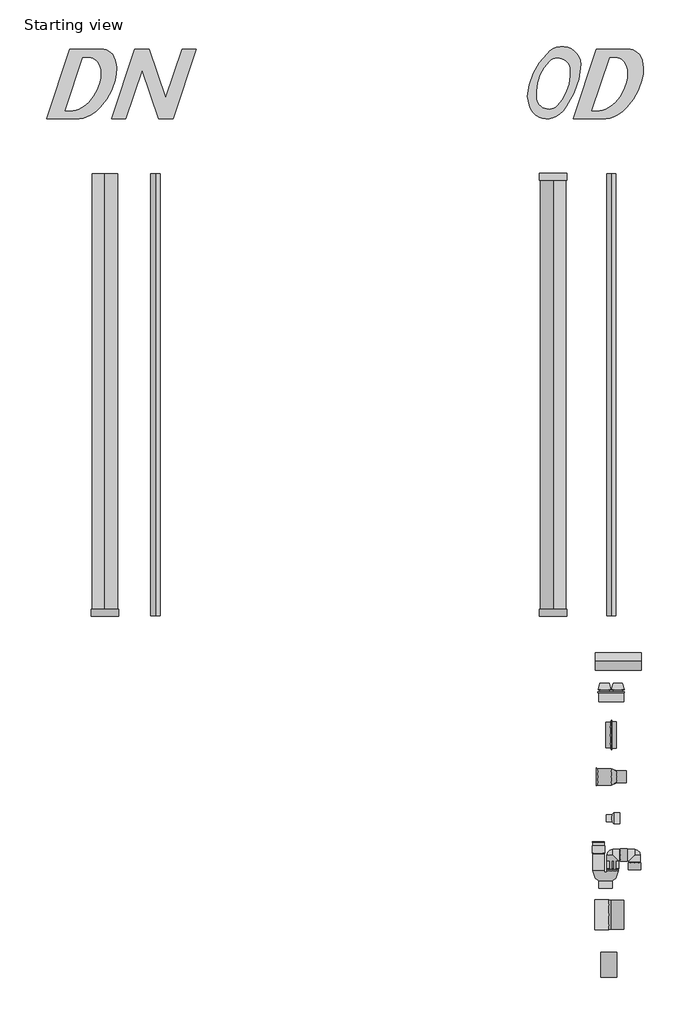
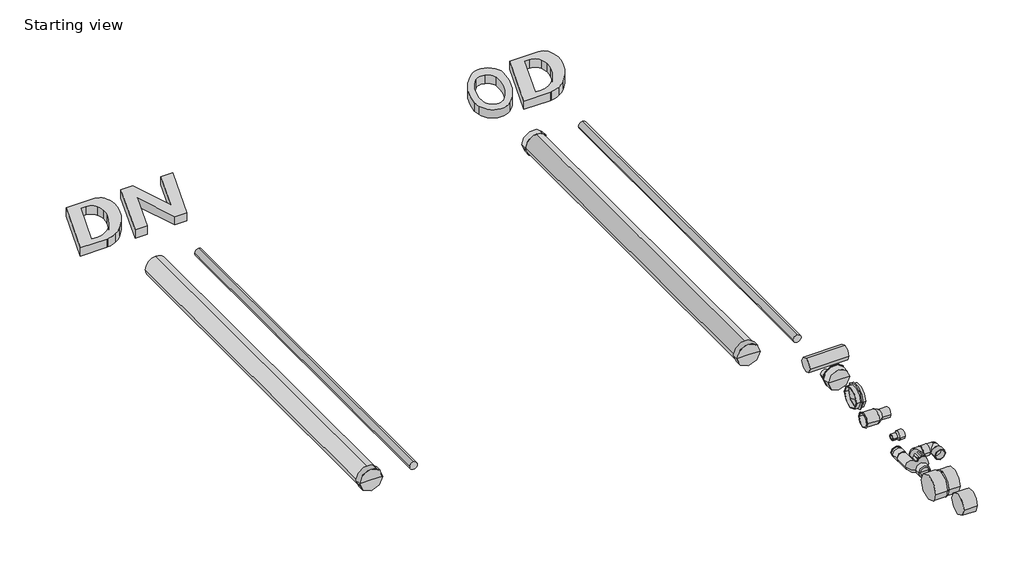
# One storey: 10 pipe fittings, 5 pipe segments, 2 flow terminals.
"""IFC4 building model written with IfcOpenShell, lengths in millimetres."""

from ifc_helpers import new_model, si_unit, point, frame, frame_2d, origin, place, context, project, spatial, circle_curve, trimmed, segment, composite_curve, outline, extrude, transform, mapped, element, save
from components import pipelife_dn_pipelife_dn_dacb9fbb, pipelife_od_pipelife_od_c3ca6225, pipe_fitting_c9823350, pipe_fitting_9321a9eb, pipe_fitting_9f1e6ddc, pipe_fitting_5ac68bb0, pipe_fitting_c3f38ee5, pipe_fitting_0e6800da, pipe_fitting_7a2b44dd, pipe_fitting_538497f1

model = new_model("IFC4")

# Units and contexts
model_context = context("Model", 3, world=origin())
ifc_project = project(units=[si_unit("LENGTHUNIT", "METRE", prefix="MILLI")], contexts=[model_context])

# Site, building, storey
site = spatial("IfcSite", under=ifc_project)
building = spatial("IfcBuilding", under=site)
storey = spatial("IfcBuildingStorey", under=building, Name="Starting view", Elevation=0.0)

# Flow terminals
placement = place(None, origin())
pipelife_dn_pipelife_dn_shape = pipelife_dn_pipelife_dn_dacb9fbb(model_context)
element("IfcFlowTerminal", 1, ObjectType="PipeLife_DN : PipeLife_DN", at=placement, inside=storey, context=model_context, shape_type="MappedRepresentation", body=[
    mapped(pipelife_dn_pipelife_dn_shape, transform((5958.7063136, 2998.2694372, 0.0), x_axis=(1.0, 0.0, 0.0), y_axis=(0.0, 1.0, 0.0), z_axis=(0.0, 0.0, 1.0))),
])
pipelife_od_pipelife_od_shape = pipelife_od_pipelife_od_c3ca6225(model_context)
element("IfcFlowTerminal", 2, ObjectType="PipeLife_OD : PipeLife_OD", at=placement, inside=storey, context=model_context, shape_type="MappedRepresentation", body=[
    mapped(pipelife_od_pipelife_od_shape, transform((7938.7063136, 2998.2694372, 0.0), x_axis=(1.0, 0.0, 0.0), y_axis=(0.0, 1.0, 0.0), z_axis=(0.0, 0.0, 1.0))),
])

# Pipe fittings
pipe_fitting_shape = pipe_fitting_c9823350(model_context)
element("IfcPipeFitting", 3, ObjectType="NLRS_52_UN_PIF_PVC kombikap_PipeLife : Grijs, var. DN/OD", at=placement, inside=storey, context=model_context, shape_type="MappedRepresentation", body=[
    mapped(pipe_fitting_shape, transform((8103.7063136, 323.2133585, 0.0), x_axis=(1.0, 0.0, 0.0), y_axis=(0.0, 1.0, 0.0), z_axis=(0.0, 0.0, 1.0))),
])
pipe_fitting_2_shape = pipe_fitting_9321a9eb(model_context)
element("IfcPipeFitting", 4, ObjectType="NLRS_52_UN_PIF_PVC krimpmof MS_PipeLife : Grijs, var. DN/OD", at=placement, inside=storey, context=model_context, shape_type="MappedRepresentation", body=[
    mapped(pipe_fitting_2_shape, transform((8115.8562575, 142.5372837, 0.0), x_axis=(1.0, 0.0, 0.0), y_axis=(0.0, 1.0, 0.0), z_axis=(0.0, 0.0, 1.0))),
])
pipe_fitting_3_shape = pipe_fitting_9f1e6ddc(model_context)
element("IfcPipeFitting", 5, ObjectType="NLRS_52_UN_PIF_PVC dubbele verloopring_PipeLife : Grijs, var. DN/OD", at=placement, inside=storey, context=model_context, shape_type="MappedRepresentation", body=[
    mapped(pipe_fitting_3_shape, transform((8095.8562575, -673.7099052, 0.0), x_axis=(1.0, 0.0, 0.0), y_axis=(0.0, 1.0, 0.0), z_axis=(0.0, 0.0, 1.0))),
])
pipe_fitting_4_shape = pipe_fitting_5ac68bb0(model_context)
element("IfcPipeFitting", 6, ObjectType="NLRS_52_UN_PIF_PVC Universeel Sifon_PipeLife : Grijs, var. DN/OD", at=placement, inside=storey, context=model_context, shape_type="MappedRepresentation", body=[
    mapped(pipe_fitting_4_shape, transform((8047.8048271, -213.1244889, 0.0), x_axis=(1.0, 0.0, 0.0), y_axis=(0.0, 1.0, 0.0), z_axis=(0.0, 0.0, 1.0))),
])
pipe_fitting_5_shape = pipe_fitting_c3f38ee5(model_context)
element("IfcPipeFitting", 7, ObjectType="NLRS_52_UN_PIF_PVC beluchter Spie_PipeLife : Grijs, var. DN/OD", at=placement, inside=storey, context=model_context, shape_type="MappedRepresentation", body=[
    mapped(pipe_fitting_5_shape, transform((8103.7063136, 508.1748023, 0.0), x_axis=(0.0, 1.0000000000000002, 0.0), y_axis=(-1.0000000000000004, 0.0, 0.0), z_axis=(0.0, 0.0, 1.0000000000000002))),
])
pipe_fitting_6_shape = pipe_fitting_0e6800da(model_context)
element("IfcPipeFitting", 8, ObjectType="NLRS_52_UN_PIF_PVC verbindingsstuk mof- vse spie_PipeLife : Grijs, var. DN/OD", at=placement, inside=storey, context=model_context, shape_type="MappedRepresentation", body=[
    mapped(pipe_fitting_6_shape, transform((8095.8562575, -456.5845592, 0.0), x_axis=(1.0, 0.0, 0.0), y_axis=(0.0, 1.0, 0.0), z_axis=(0.0, 0.0, 1.0))),
])
pipe_fitting_7_shape = pipe_fitting_7a2b44dd(model_context)
element("IfcPipeFitting", 9, ObjectType="NLRS_52_UN_PIF_PVC afsluitkap_PipeLife : Grijs, var. DN/OD", at=placement, inside=storey, context=model_context, shape_type="MappedRepresentation", body=[
    mapped(pipe_fitting_7_shape, transform((5903.7063136, 840.8849051, 0.0), x_axis=(0.0, -1.0, 0.0), y_axis=(1.0, 0.0, 0.0), z_axis=(0.0, 0.0, 1.0))),
])
element("IfcPipeFitting", 10, ObjectType="NLRS_52_UN_PIF_PVC afsluitkap_PipeLife : Grijs, var. DN/OD", at=placement, inside=storey, context=model_context, shape_type="MappedRepresentation", body=[
    mapped(pipe_fitting_7_shape, transform((7851.0966084, 2760.8849051, 0.0), x_axis=(0.0, 1.0, 0.0), y_axis=(-1.0, 0.0, 0.0), z_axis=(0.0, 0.0, 1.0))),
])
element("IfcPipeFitting", 11, ObjectType="NLRS_52_UN_PIF_PVC afsluitkap_PipeLife : Grijs, var. DN/OD", at=placement, inside=storey, context=model_context, shape_type="MappedRepresentation", body=[
    mapped(pipe_fitting_7_shape, transform((7851.0966084, 840.8849051, 0.0), x_axis=(0.0, -1.0, 0.0), y_axis=(1.0, 0.0, 0.0), z_axis=(0.0, 0.0, 1.0))),
])
pipe_fitting_8_shape = pipe_fitting_538497f1(model_context)
element("IfcPipeFitting", 12, ObjectType="NLRS_52_UN_PIF_PVC overgangsstuk PVC-Metaal MS_PipeLife : Grijs, var. DN/OD", at=placement, inside=storey, context=model_context, shape_type="MappedRepresentation", body=[
    mapped(pipe_fitting_8_shape, transform((8116.8647405, -37.8459166, 0.0), x_axis=(1.0, 0.0, 0.0), y_axis=(0.0, 1.0, 0.0), z_axis=(0.0, 0.0, 1.0))),
])

# Pipe segments
element("IfcPipeSegment", 13, ObjectType="NLRS_52_PI_Polisan PVC Wit DN_PipeLife", at=placement, inside=storey, context=model_context, shape_type="SweptSolid", body=[
    extrude(outline(composite_curve([segment(trimmed(circle_curve(frame_2d((0.0, 6123.7063136)), 20.0), [point((0.0, 6103.7063136))], [point((-20.0, 6123.7063136))], False, "CARTESIAN"), True, "CONTINUOUS"), segment(trimmed(circle_curve(frame_2d((0.0, 6123.7063136)), 20.0), [point((-20.0, 6123.7063136))], [point((0.0, 6143.7063136))], False, "CARTESIAN"), True, "CONTINUOUS"), segment(trimmed(circle_curve(frame_2d((0.0, 6123.7063136)), 20.0), [point((0.0, 6143.7063136))], [point((20.0, 6123.7063136))], False, "CARTESIAN"), True, "CONTINUOUS"), segment(trimmed(circle_curve(frame_2d((0.0, 6123.7063136)), 20.0), [point((20.0, 6123.7063136))], [point((0.0, 6103.7063136))], False, "CARTESIAN"), True, "CONTINUOUS")], self_intersect=False)), frame((0.0, 840.8849051, 0.0), z_axis=(0.0, 1.0, 0.0), x_axis=(0.0, 0.0, 1.0)), (0.0, 0.0, 1.0), 1920.0),
])
element("IfcPipeSegment", 14, ObjectType="NLRS_52_PI_Polisan PVC Wit OD_PipeLife", at=placement, inside=storey, context=model_context, shape_type="SweptSolid", body=[
    extrude(outline(composite_curve([segment(trimmed(circle_curve(frame_2d((0.0, 8103.7063136)), 20.0), [point((0.0, 8083.7063136))], [point((-20.0, 8103.7063136))], False, "CARTESIAN"), True, "CONTINUOUS"), segment(trimmed(circle_curve(frame_2d((0.0, 8103.7063136)), 20.0), [point((-20.0, 8103.7063136))], [point((0.0, 8123.7063136))], False, "CARTESIAN"), True, "CONTINUOUS"), segment(trimmed(circle_curve(frame_2d((0.0, 8103.7063136)), 20.0), [point((0.0, 8123.7063136))], [point((20.0, 8103.7063136))], False, "CARTESIAN"), True, "CONTINUOUS"), segment(trimmed(circle_curve(frame_2d((0.0, 8103.7063136)), 20.0), [point((20.0, 8103.7063136))], [point((0.0, 8083.7063136))], False, "CARTESIAN"), True, "CONTINUOUS")], self_intersect=False)), frame((0.0, 840.8849051, 0.0), z_axis=(0.0, 1.0, 0.0), x_axis=(0.0, 0.0, 1.0)), (0.0, 0.0, 1.0), 1920.0),
])
element("IfcPipeSegment", 15, ObjectType="NLRS_52_PI_Polisan PVC Grijs DN_PipeLife", at=placement, inside=storey, context=model_context, shape_type="SweptSolid", body=[
    extrude(outline(composite_curve([segment(trimmed(circle_curve(frame_2d((0.0, 5903.7063136)), 55.0), [point((0.0, 5958.7063136))], [point((55.0, 5903.7063136))], False, "CARTESIAN"), True, "CONTINUOUS"), segment(trimmed(circle_curve(frame_2d((0.0, 5903.7063136)), 55.0), [point((55.0, 5903.7063136))], [point((0.0, 5848.7063136))], False, "CARTESIAN"), True, "CONTINUOUS"), segment(trimmed(circle_curve(frame_2d((0.0, 5903.7063136)), 55.0), [point((0.0, 5848.7063136))], [point((-55.0, 5903.7063136))], False, "CARTESIAN"), True, "CONTINUOUS"), segment(trimmed(circle_curve(frame_2d((0.0, 5903.7063136)), 55.0), [point((-55.0, 5903.7063136))], [point((0.0, 5958.7063136))], False, "CARTESIAN"), True, "CONTINUOUS")], self_intersect=False)), frame((0.0, 840.8849051, 0.0), z_axis=(0.0, 1.0, 0.0), x_axis=(0.0, 0.0, 1.0)), (0.0, 0.0, 1.0), 1920.0),
])
element("IfcPipeSegment", 16, ObjectType="NLRS_52_PI_Polisan PVC Grijs OD_PipeLife", at=placement, inside=storey, context=model_context, shape_type="SweptSolid", body=[
    extrude(outline(composite_curve([segment(trimmed(circle_curve(frame_2d((0.0, 7851.0966084)), 55.0), [point((0.0, 7796.0966084))], [point((-55.0, 7851.0966084))], False, "CARTESIAN"), True, "CONTINUOUS"), segment(trimmed(circle_curve(frame_2d((0.0, 7851.0966084)), 55.0), [point((-55.0, 7851.0966084))], [point((0.0, 7906.0966084))], False, "CARTESIAN"), True, "CONTINUOUS"), segment(trimmed(circle_curve(frame_2d((0.0, 7851.0966084)), 55.0), [point((0.0, 7906.0966084))], [point((55.0, 7851.0966084))], False, "CARTESIAN"), True, "CONTINUOUS"), segment(trimmed(circle_curve(frame_2d((0.0, 7851.0966084)), 55.0), [point((55.0, 7851.0966084))], [point((0.0, 7796.0966084))], False, "CARTESIAN"), True, "CONTINUOUS")], self_intersect=False)), frame((0.0, 840.8849051, 0.0), z_axis=(0.0, 1.0, 0.0), x_axis=(0.0, 0.0, 1.0)), (0.0, 0.0, 1.0), 1920.0),
])
element("IfcPipeSegment", 17, ObjectType="NLRS_52_PI_Polisan PVC Grijs_PipeLife (klemzadel verbinding)", at=placement, inside=storey, context=model_context, shape_type="SweptSolid", body=[
    extrude(outline(composite_curve([segment(trimmed(circle_curve(frame_2d((643.216111, 0.0)), 37.5), [point((605.716111, 0.0))], [point((643.216111, 37.5))], False, "CARTESIAN"), True, "CONTINUOUS"), segment(trimmed(circle_curve(frame_2d((643.216111, 0.0)), 37.5), [point((643.216111, 37.5))], [point((680.716111, 0.0))], False, "CARTESIAN"), True, "CONTINUOUS"), segment(trimmed(circle_curve(frame_2d((643.216111, 0.0)), 37.5), [point((680.716111, 0.0))], [point((643.216111, -37.5))], False, "CARTESIAN"), True, "CONTINUOUS"), segment(trimmed(circle_curve(frame_2d((643.216111, 0.0)), 37.5), [point((643.216111, -37.5))], [point((605.716111, 0.0))], False, "CARTESIAN"), True, "CONTINUOUS")], self_intersect=False)), frame((8035.0244372, 0.0, 0.0), z_axis=(1.0, 0.0, 0.0), x_axis=(0.0, 1.0, 0.0)), (0.0, 0.0, 1.0), 200.0),
])

save(model, "model.ifc")
